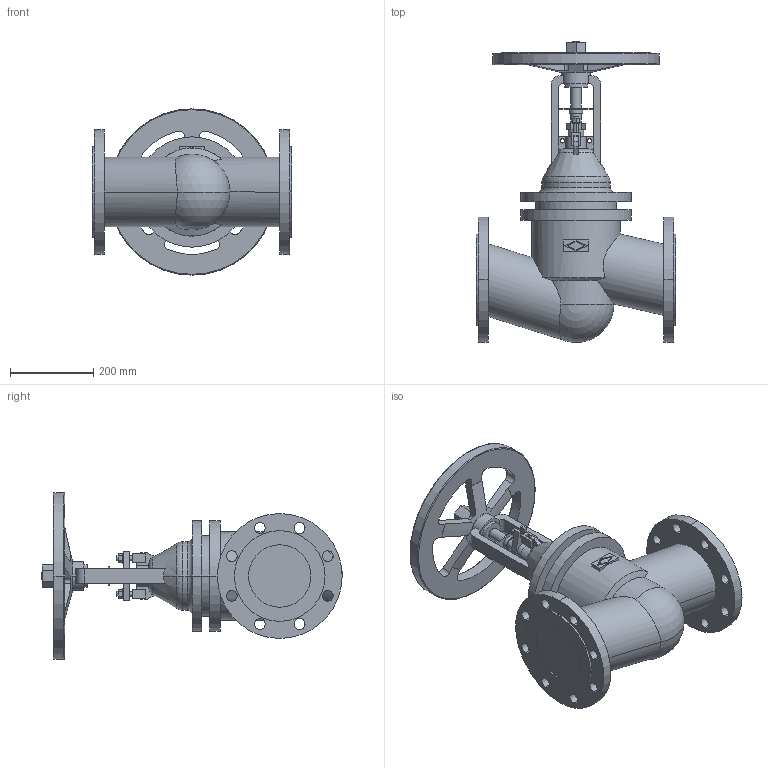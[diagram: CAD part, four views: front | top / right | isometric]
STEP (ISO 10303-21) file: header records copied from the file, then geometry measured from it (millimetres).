
FILE_DESCRIPTION(('OneSpaceDesigner STEP Export'),'2;1');
FILE_NAME('c000003734.stp','2009-06-15T12:38:37',(''),(''),'OneSpace Designer STEP processor for AP214 (Solid Model)','OneSpace Modeling 15.50B 03-Nov-2007 (C) CoCreate Software GmbH','');
FILE_SCHEMA(('AUTOMOTIVE_DESIGN { 1 0 10303 214 1 1 1 1 }'));
Length unit declared in the file: millimetre
Products named in the file (1): 1
Bounding box: 480 x 723.57 x 400 mm (x, y, z)
Volume: 24966314.9 mm3; surface area: 1137139.9 mm2
Topology: 1 solids, 1 shells, 313 faces, 861 edges, 568 vertices
Faces by surface type: plane 146, cylinder 136, torus 19, cone 10, sphere 2
Entity records: 12556 total; most frequent: CARTESIAN_POINT 2510, ORIENTED_EDGE 1718, DIRECTION 1385, EDGE_CURVE 859, VERTEX_POINT 568, AXIS2_PLACEMENT_3D 479, VECTOR 427, LINE 427
